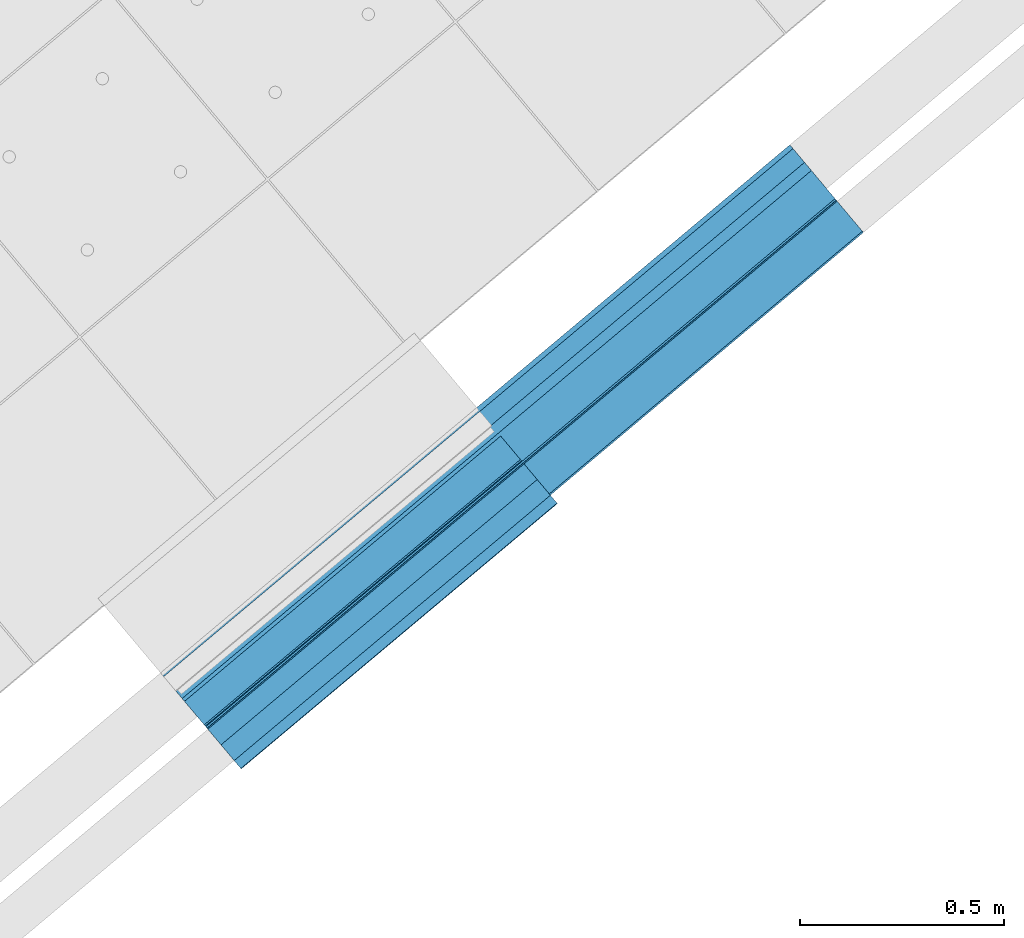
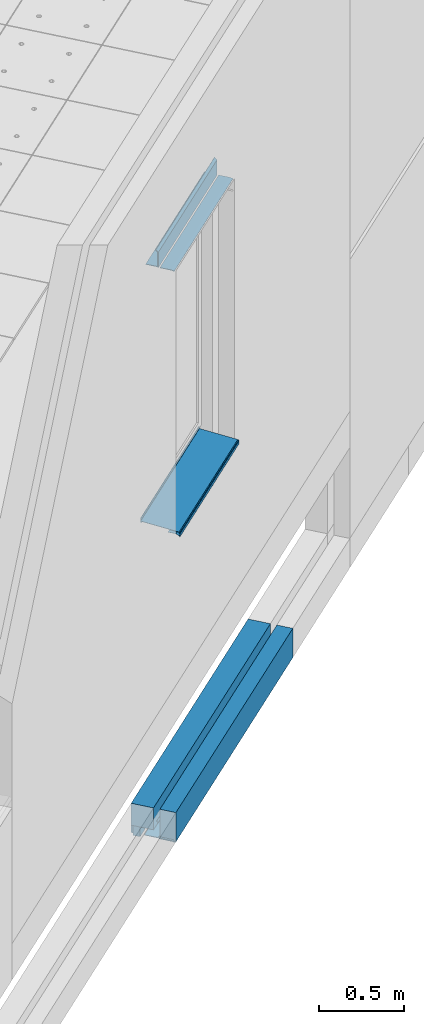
# One storey, part 51 of 321: 10 building element parts, 3 elements without a shape of their own.
"""IFC2X3 building model written with IfcOpenShell, lengths in millimetres."""

from ifc_helpers import new_model, entity, si_unit, converted_unit, derived_unit, money_unit, direction, frame, origin_with_axes, place, context, subcontext, project, spatial, faceted_brep, material, type_object, element, aggregate, save


model = new_model("IFC2X3")

# Units and contexts
model_context = context("Model", 3, precision=0.01, world=origin_with_axes(), true_north=direction((0.0, 1.0)))
plan_context = context("Plan", 3, precision=0.01, world=origin_with_axes(), true_north=direction((0.0, 1.0)))
body_context = subcontext(model_context, "Body", "Model", "MODEL_VIEW")
ifc_project = project(units=[si_unit("LENGTHUNIT", "METRE", prefix="MILLI"), si_unit("AREAUNIT", "SQUARE_METRE"), si_unit("VOLUMEUNIT", "CUBIC_METRE"), converted_unit("PLANEANGLEUNIT", "DEGREE", entity("IfcPlaneAngleMeasure", 0.0174532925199), si_unit("PLANEANGLEUNIT", "RADIAN"), dimensions=[0, 0, 0, 0, 0, 0, 0]), money_unit("EUR"), converted_unit("TIMEUNIT", "Year", entity("IfcTimeMeasure", 31556926.0), si_unit("TIMEUNIT", "SECOND"), dimensions=[0, 0, 1, 0, 0, 0, 0]), si_unit("MASSUNIT", "GRAM", prefix="KILO"), si_unit("THERMODYNAMICTEMPERATUREUNIT", "DEGREE_CELSIUS"), si_unit("LUMINOUSINTENSITYUNIT", "LUMEN"), si_unit("ENERGYUNIT", "JOULE", prefix="MEGA"), derived_unit("THERMALCONDUCTANCEUNIT", [(si_unit("POWERUNIT", "WATT"), 1), (si_unit("LENGTHUNIT", "METRE"), -1), (si_unit("THERMODYNAMICTEMPERATUREUNIT", "KELVIN"), -1)]), derived_unit("SPECIFICHEATCAPACITYUNIT", [(si_unit("ENERGYUNIT", "JOULE"), 1), (si_unit("MASSUNIT", "GRAM", prefix="KILO"), -1), (si_unit("THERMODYNAMICTEMPERATUREUNIT", "KELVIN"), -1)]), derived_unit("MASSDENSITYUNIT", [(si_unit("MASSUNIT", "GRAM", prefix="KILO"), 1), (si_unit("VOLUMEUNIT", "CUBIC_METRE"), -1)])], contexts=[model_context, plan_context])

# Site, building, storey
site_placement = place(None, origin_with_axes())
site = spatial("IfcSite", under=ifc_project, at=site_placement, Name="Fortuinstraat Woensdrecht", CompositionType="ELEMENT")
building_placement = place(site_placement, origin_with_axes())
building = spatial("IfcBuilding", under=site, at=building_placement, Name="IKC Fortuna", CompositionType="ELEMENT")
storey_placement = place(building_placement, frame((0.0, 0.0, 4000.0), z_axis=(0.0, 0.0, 1.0), x_axis=(1.0, 0.0, 0.0)))
storey = spatial("IfcBuildingStorey", under=building, at=storey_placement, Name="01 eerste verdieping", CompositionType="ELEMENT", Elevation=4000.0)

# Covering, building element parts
covering_type_1 = type_object("IfcCoveringType", Name="41 Waterslag MW 545 x 90", PredefinedType="NOTDEFINED")
covering_1_placement = place(storey_placement, frame((20551.1088054, -11563.3002421, 2522.49999925), z_axis=(0.0, 0.0, 1.0), x_axis=(0.766044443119, 0.642787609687, 0.0)))
covering_1 = element("IfcCovering", 1, at=covering_1_placement, inside=storey, type_object=covering_type_1, Name="41_Afwerking_Waterslag", PredefinedType="NOTDEFINED")
ifc_material_1 = material(Name="Metaal - Aluminium")
building_element_part_1_placement = place(covering_1_placement, origin_with_axes())
building_element_part_1 = element("IfcBuildingElementPart", 2, at=building_element_part_1_placement, material=ifc_material_1, Name="Metaal - Aluminium", context=body_context, shape_type="Brep", body=[
    faceted_brep([(1010.0, -167.003696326, -64.7512509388), (1010.0, -164.901915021, -59.3465292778), (0.0, -164.901915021, -59.3465292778), (0.0, -167.003696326, -64.7512509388), (1010.0, -167.003696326, -86.9206015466), (1010.0, -166.030466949, -89.132433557), (1010.0, -163.742229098, -89.9091856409), (1010.0, -162.360118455, -89.7882666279), (1010.0, -162.035057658, -89.6279643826), (1010.0, -161.903696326, -89.2901692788), (1010.0, -161.903696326, -84.9222091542), (1010.0, -162.050140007, -84.5686628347), (1010.0, -162.403686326, -84.4222191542), (1010.0, -162.653694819, -84.4222191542), (1010.0, -163.358998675, -84.7155720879), (1010.0, -163.403696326, -84.9222091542), (1010.0, -163.403696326, -86.7222191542), (1010.0, -163.46227497, -86.8636405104), (1010.0, -163.603696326, -86.9222191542), (1010.0, -165.303696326, -86.9222191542), (1010.0, -165.445117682, -86.8636405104), (1010.0, -165.503696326, -86.7222191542), (1010.0, -165.503696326, -66.105485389), (1010.0, -165.451151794, -65.9703673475), (1010.0, -165.321127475, -65.9062464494), (1010.0, -163.621127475, -65.7575157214), (1010.0, -163.468578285, -65.8092991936), (1010.0, -163.403696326, -65.956754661), (1010.0, -163.403696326, -67.9222291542), (1010.0, -163.257252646, -68.2757754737), (1010.0, -162.903706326, -68.4222191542), (1010.0, -162.403686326, -68.4222191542), (1010.0, -162.050140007, -68.2757754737), (1010.0, -161.903696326, -67.9222291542), (1010.0, -161.903696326, -65.7905262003), (1010.0, -161.851151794, -65.6554081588), (1010.0, -161.721127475, -65.5912872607), (1010.0, -157.460879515, -65.2185638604), (1010.0, -157.135818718, -65.0582616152), (1010.0, -157.004457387, -64.7204665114), (1010.0, -157.004457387, -64.2185456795), (1010.0, -157.166659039, -63.8499143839), (1010.0, -157.548024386, -63.7204582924), (1010.0, -164.111737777, -64.2947088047), (1010.0, -164.52638143, -64.131738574), (1010.0, -164.646415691, -63.7026926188), (1010.0, -162.774740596, -60.3769292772), (1010.0, -159.276149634, -58.852550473), (1010.0, 80.4527258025, -37.8789915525), (1010.0, 80.8340987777, -38.0084502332), (1010.0, 80.9963036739, -38.3770889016), (1010.0, 80.9963036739, -42.3923682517), (1010.0, 80.8649423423, -42.7301633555), (1010.0, 80.5398815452, -42.8904656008), (1010.0, 74.9527258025, -43.3792783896), (1010.0, 74.6276650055, -43.5395806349), (1010.0, 74.4963036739, -43.8773757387), (1010.0, 74.4963036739, -44.3792856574), (1010.0, 74.6585085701, -44.7479243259), (1010.0, 75.0398815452, -44.8773830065), (1010.0, 82.4237866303, -44.231375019), (1010.0, 82.547776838, -44.1735574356), (1010.0, 82.9377250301, -43.7836092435), (1010.0, 83.0, -43.6421878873), (1010.0, 82.9377250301, -43.5007665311), (1010.0, 82.4963036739, -43.0593451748), (1010.0, 82.9377250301, -42.6179238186), (1010.0, 83.0, -42.4765024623), (1010.0, 82.9377250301, -42.3350811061), (1010.0, 82.4963036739, -41.8936597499), (1010.0, 82.9377250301, -41.4522383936), (1010.0, 83.0, -41.3108170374), (1010.0, 82.9377250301, -41.1693956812), (1010.0, 82.4963036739, -40.7279743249), (1010.0, 82.9377250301, -40.2865529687), (1010.0, 83.0, -40.1451316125), (1010.0, 82.9377250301, -40.0037102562), (1010.0, 82.4963036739, -39.5622889), (1010.0, 82.9377250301, -39.1208675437), (1010.0, 83.0, -38.9794461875), (1010.0, 82.9377250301, -38.8380248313), (1010.0, 82.4963036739, -38.396603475), (1010.0, 82.9377250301, -37.9551821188), (1010.0, 83.0, -37.8137607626), (1010.0, 82.9377250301, -37.6723394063), (1010.0, 82.4963036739, -37.2309180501), (1010.0, 82.9377250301, -36.7894966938), (1010.0, 83.0, -36.6480753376), (1010.0, 82.9377250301, -36.5066539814), (1010.0, 82.4963036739, -36.0652326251), (1010.0, 82.9377250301, -35.6238112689), (1010.0, 83.0, -35.4823899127), (1010.0, 82.9377250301, -35.3409685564), (1010.0, 82.4963036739, -34.8995472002), (1010.0, 82.9377250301, -34.4581258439), (1010.0, 83.0, -34.3167044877), (1010.0, 82.9377250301, -34.1752831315), (1010.0, 82.4963036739, -33.7338617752), (1010.0, 82.9377250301, -33.292440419), (1010.0, 83.0, -33.1510190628), (1010.0, 82.9377250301, -33.0095977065), (1010.0, 82.4963036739, -32.5681763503), (1010.0, 82.9377250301, -32.126754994), (1010.0, 83.0, -31.9853336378), (1010.0, 82.9377250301, -31.8439122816), (1010.0, 82.4963036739, -31.4024909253), (1010.0, 82.9377250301, -30.9610695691), (1010.0, 83.0, -30.8196482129), (1010.0, 82.9377250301, -30.6782268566), (1010.0, 82.4963036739, -30.2368055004), (1010.0, 82.9377250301, -29.7953841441), (1010.0, 83.0, -29.6539627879), (1010.0, 82.9377250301, -29.5125414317), (1010.0, 82.4963036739, -29.0711200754), (1010.0, 82.9377250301, -28.6296987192), (1010.0, 83.0, -28.488277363), (1010.0, 82.9377250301, -28.3468560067), (1010.0, 82.4963036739, -27.9054346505), (1010.0, 82.9377250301, -27.4640132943), (1010.0, 83.0, -27.322591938), (1010.0, 82.9377250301, -27.1811705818), (1010.0, 82.4963036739, -26.7397492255), (1010.0, 82.9377250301, -26.2983278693), (1010.0, 83.0, -26.1569065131), (1010.0, 82.9377250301, -26.0154851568), (1010.0, 82.4963036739, -25.5740638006), (1010.0, 82.9377250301, -25.1326424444), (1010.0, 83.0, -24.9912210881), (1010.0, 82.9377250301, -24.8497997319), (1010.0, 82.4963036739, -24.4083783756), (1010.0, 82.9377250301, -23.9669570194), (1010.0, 83.0, -23.8255356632), (1010.0, 82.9377250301, -23.6841143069), (1010.0, 82.4963036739, -23.2426929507), (1010.0, 82.9377250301, -22.8012715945), (1010.0, 83.0, -22.6598502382), (1010.0, 82.9377250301, -22.518428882), (1010.0, 82.4963036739, -22.0770075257), (1010.0, 82.9377250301, -21.6355861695), (1010.0, 83.0, -21.4941648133), (1010.0, 82.9377250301, -21.352743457), (1010.0, 82.4963036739, -20.9113221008), (1010.0, 82.9377250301, -20.4699007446), (1010.0, 83.0, -20.3284793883), (1010.0, 82.9377250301, -20.1870580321), (1010.0, 82.4963036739, -19.7456366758), (1010.0, 82.9377250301, -19.3042153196), (1010.0, 83.0, -19.1627939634), (1010.0, 82.9377250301, -19.0213726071), (1010.0, 82.4963036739, -18.5799512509), (1010.0, 82.9377250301, -18.1385298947), (1010.0, 83.0, -17.9971085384), (1010.0, 82.9377250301, -17.8556871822), (1010.0, 82.4963036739, -17.4142658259), (1010.0, 82.9377250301, -16.9728444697), (1010.0, 82.9963036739, -16.8314231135), (1010.0, 82.9963036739, -16.4250305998), (1010.0, 82.9437448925, -16.2898970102), (1010.0, 82.8136928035, -16.2257879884), (1010.0, 82.3655700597, -16.2619509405), (1010.0, 81.3903876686, -16.7428576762), (1010.0, 80.9963036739, -17.7562429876), (1010.0, 80.9963036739, -35.2652474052), (1010.0, 80.8649423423, -35.603042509), (1010.0, 80.5398815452, -35.7633447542), (1010.0, -159.700942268, -56.781693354), (0.0, -159.700942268, -56.781693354), (0.0, 80.5398815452, -35.7633447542), (0.0, 80.8649423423, -35.603042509), (0.0, 80.9963036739, -35.2652474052), (0.0, 80.9963036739, -17.7562429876), (0.0, 81.3903876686, -16.7428576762), (0.0, 82.3655700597, -16.2619509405), (0.0, 82.8136928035, -16.2257879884), (0.0, 82.9437448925, -16.2898970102), (0.0, 82.9963036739, -16.4250305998), (0.0, 82.9963036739, -16.8314231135), (0.0, 82.9377250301, -16.9728444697), (0.0, 82.4963036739, -17.4142658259), (0.0, 82.9377250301, -17.8556871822), (0.0, 83.0, -17.9971085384), (0.0, 82.9377250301, -18.1385298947), (0.0, 82.4963036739, -18.5799512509), (0.0, 82.9377250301, -19.0213726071), (0.0, 83.0, -19.1627939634), (0.0, 82.9377250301, -19.3042153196), (0.0, 82.4963036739, -19.7456366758), (0.0, 82.9377250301, -20.1870580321), (0.0, 83.0, -20.3284793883), (0.0, 82.9377250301, -20.4699007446), (0.0, 82.4963036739, -20.9113221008), (0.0, 82.9377250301, -21.352743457), (0.0, 83.0, -21.4941648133), (0.0, 82.9377250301, -21.6355861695), (0.0, 82.4963036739, -22.0770075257), (0.0, 82.9377250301, -22.518428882), (0.0, 83.0, -22.6598502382), (0.0, 82.9377250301, -22.8012715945), (0.0, 82.4963036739, -23.2426929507), (0.0, 82.9377250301, -23.6841143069), (0.0, 83.0, -23.8255356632), (0.0, 82.9377250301, -23.9669570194), (0.0, 82.4963036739, -24.4083783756), (0.0, 82.9377250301, -24.8497997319), (0.0, 83.0, -24.9912210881), (0.0, 82.9377250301, -25.1326424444), (0.0, 82.4963036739, -25.5740638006), (0.0, 82.9377250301, -26.0154851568), (0.0, 83.0, -26.1569065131), (0.0, 82.9377250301, -26.2983278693), (0.0, 82.4963036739, -26.7397492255), (0.0, 82.9377250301, -27.1811705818), (0.0, 83.0, -27.322591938), (0.0, 82.9377250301, -27.4640132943), (0.0, 82.4963036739, -27.9054346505), (0.0, 82.9377250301, -28.3468560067), (0.0, 83.0, -28.488277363), (0.0, 82.9377250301, -28.6296987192), (0.0, 82.4963036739, -29.0711200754), (0.0, 82.9377250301, -29.5125414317), (0.0, 83.0, -29.6539627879), (0.0, 82.9377250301, -29.7953841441), (0.0, 82.4963036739, -30.2368055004), (0.0, 82.9377250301, -30.6782268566), (0.0, 83.0, -30.8196482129), (0.0, 82.9377250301, -30.9610695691), (0.0, 82.4963036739, -31.4024909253), (0.0, 82.9377250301, -31.8439122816), (0.0, 83.0, -31.9853336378), (0.0, 82.9377250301, -32.126754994), (0.0, 82.4963036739, -32.5681763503), (0.0, 82.9377250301, -33.0095977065), (0.0, 83.0, -33.1510190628), (0.0, 82.9377250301, -33.292440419), (0.0, 82.4963036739, -33.7338617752), (0.0, 82.9377250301, -34.1752831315), (0.0, 83.0, -34.3167044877), (0.0, 82.9377250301, -34.4581258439), (0.0, 82.4963036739, -34.8995472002), (0.0, 82.9377250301, -35.3409685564), (0.0, 83.0, -35.4823899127), (0.0, 82.9377250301, -35.6238112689), (0.0, 82.4963036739, -36.0652326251), (0.0, 82.9377250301, -36.5066539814), (0.0, 83.0, -36.6480753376), (0.0, 82.9377250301, -36.7894966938), (0.0, 82.4963036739, -37.2309180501), (0.0, 82.9377250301, -37.6723394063), (0.0, 83.0, -37.8137607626), (0.0, 82.9377250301, -37.9551821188), (0.0, 82.4963036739, -38.396603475), (0.0, 82.9377250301, -38.8380248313), (0.0, 83.0, -38.9794461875), (0.0, 82.9377250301, -39.1208675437), (0.0, 82.4963036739, -39.5622889), (0.0, 82.9377250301, -40.0037102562), (0.0, 83.0, -40.1451316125), (0.0, 82.9377250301, -40.2865529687), (0.0, 82.4963036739, -40.7279743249), (0.0, 82.9377250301, -41.1693956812), (0.0, 83.0, -41.3108170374), (0.0, 82.9377250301, -41.4522383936), (0.0, 82.4963036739, -41.8936597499), (0.0, 82.9377250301, -42.3350811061), (0.0, 83.0, -42.4765024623), (0.0, 82.9377250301, -42.6179238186), (0.0, 82.4963036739, -43.0593451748), (0.0, 82.9377250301, -43.5007665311), (0.0, 83.0, -43.6421878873), (0.0, 82.9377250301, -43.7836092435), (0.0, 82.547776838, -44.1735574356), (0.0, 82.4237866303, -44.231375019), (0.0, 75.0398815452, -44.8773830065), (0.0, 74.6585085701, -44.7479243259), (0.0, 74.4963036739, -44.3792856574), (0.0, 74.4963036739, -43.8773757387), (0.0, 74.6276650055, -43.5395806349), (0.0, 74.9527258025, -43.3792783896), (0.0, 80.5398815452, -42.8904656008), (0.0, 80.8649423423, -42.7301633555), (0.0, 80.9963036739, -42.3923682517), (0.0, 80.9963036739, -38.3770889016), (0.0, 80.8340987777, -38.0084502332), (0.0, 80.4527258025, -37.8789915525), (0.0, -159.276149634, -58.852550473), (0.0, -162.774740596, -60.3769292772), (0.0, -164.646415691, -63.7026926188), (0.0, -164.52638143, -64.131738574), (0.0, -164.111737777, -64.2947088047), (0.0, -157.548024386, -63.7204582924), (0.0, -157.166659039, -63.8499143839), (0.0, -157.004457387, -64.2185456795), (0.0, -157.004457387, -64.7204665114), (0.0, -157.135818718, -65.0582616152), (0.0, -157.460879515, -65.2185638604), (0.0, -161.721127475, -65.5912872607), (0.0, -161.851151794, -65.6554081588), (0.0, -161.903696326, -65.7905262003), (0.0, -161.903696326, -67.9222291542), (0.0, -162.050140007, -68.2757754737), (0.0, -162.403686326, -68.4222191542), (0.0, -162.903706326, -68.4222191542), (0.0, -163.257252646, -68.2757754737), (0.0, -163.403696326, -67.9222291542), (0.0, -163.403696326, -65.956754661), (0.0, -163.468578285, -65.8092991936), (0.0, -163.621127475, -65.7575157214), (0.0, -165.321127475, -65.9062464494), (0.0, -165.451151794, -65.9703673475), (0.0, -165.503696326, -66.105485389), (0.0, -165.503696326, -86.7222191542), (0.0, -165.445117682, -86.8636405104), (0.0, -165.303696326, -86.9222191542), (0.0, -163.603696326, -86.9222191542), (0.0, -163.46227497, -86.8636405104), (0.0, -163.403696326, -86.7222191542), (0.0, -163.403696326, -84.9222091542), (0.0, -163.358998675, -84.7155720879), (0.0, -162.653694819, -84.4222191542), (0.0, -162.403686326, -84.4222191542), (0.0, -162.050140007, -84.5686628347), (0.0, -161.903696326, -84.9222091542), (0.0, -161.903696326, -89.2901692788), (0.0, -162.035057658, -89.6279643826), (0.0, -162.360118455, -89.7882666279), (0.0, -163.742229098, -89.9091856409), (0.0, -166.030466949, -89.132433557), (0.0, -167.003696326, -86.9206015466)], [[[0, 1, 2, 3]], [[0, 4, 5, 6, 7, 8, 9, 10, 11, 12, 13, 14, 15, 16, 17, 18, 19, 20, 21, 22, 23, 24, 25, 26, 27, 28, 29, 30, 31, 32, 33, 34, 35, 36, 37, 38, 39, 40, 41, 42, 43, 44, 45, 46, 47, 48, 49, 50, 51, 52, 53, 54, 55, 56, 57, 58, 59, 60, 61, 62, 63, 64, 65, 66, 67, 68, 69, 70, 71, 72, 73, 74, 75, 76, 77, 78, 79, 80, 81, 82, 83, 84, 85, 86, 87, 88, 89, 90, 91, 92, 93, 94, 95, 96, 97, 98, 99, 100, 101, 102, 103, 104, 105, 106, 107, 108, 109, 110, 111, 112, 113, 114, 115, 116, 117, 118, 119, 120, 121, 122, 123, 124, 125, 126, 127, 128, 129, 130, 131, 132, 133, 134, 135, 136, 137, 138, 139, 140, 141, 142, 143, 144, 145, 146, 147, 148, 149, 150, 151, 152, 153, 154, 155, 156, 157, 158, 159, 160, 161, 162, 163, 164, 165, 1]], [[1, 165, 166, 2]], [[3, 2, 166, 167, 168, 169, 170, 171, 172, 173, 174, 175, 176, 177, 178, 179, 180, 181, 182, 183, 184, 185, 186, 187, 188, 189, 190, 191, 192, 193, 194, 195, 196, 197, 198, 199, 200, 201, 202, 203, 204, 205, 206, 207, 208, 209, 210, 211, 212, 213, 214, 215, 216, 217, 218, 219, 220, 221, 222, 223, 224, 225, 226, 227, 228, 229, 230, 231, 232, 233, 234, 235, 236, 237, 238, 239, 240, 241, 242, 243, 244, 245, 246, 247, 248, 249, 250, 251, 252, 253, 254, 255, 256, 257, 258, 259, 260, 261, 262, 263, 264, 265, 266, 267, 268, 269, 270, 271, 272, 273, 274, 275, 276, 277, 278, 279, 280, 281, 282, 283, 284, 285, 286, 287, 288, 289, 290, 291, 292, 293, 294, 295, 296, 297, 298, 299, 300, 301, 302, 303, 304, 305, 306, 307, 308, 309, 310, 311, 312, 313, 314, 315, 316, 317, 318, 319, 320, 321, 322, 323, 324, 325, 326, 327]], [[4, 0, 3, 327]], [[5, 4, 327, 326]], [[6, 5, 326, 325]], [[7, 6, 325, 324]], [[8, 7, 324, 323]], [[9, 8, 323, 322]], [[10, 9, 322, 321]], [[11, 10, 321, 320]], [[12, 11, 320, 319]], [[13, 12, 319, 318]], [[14, 13, 318, 317]], [[15, 14, 317, 316]], [[16, 15, 316, 315]], [[17, 16, 315, 314]], [[18, 17, 314, 313]], [[19, 18, 313, 312]], [[20, 19, 312, 311]], [[21, 20, 311, 310]], [[22, 21, 310, 309]], [[23, 22, 309, 308]], [[24, 23, 308, 307]], [[25, 24, 307, 306]], [[26, 25, 306, 305]], [[27, 26, 305, 304]], [[28, 27, 304, 303]], [[29, 28, 303, 302]], [[30, 29, 302, 301]], [[31, 30, 301, 300]], [[32, 31, 300, 299]], [[33, 32, 299, 298]], [[34, 33, 298, 297]], [[35, 34, 297, 296]], [[36, 35, 296, 295]], [[37, 36, 295, 294]], [[38, 37, 294, 293]], [[39, 38, 293, 292]], [[40, 39, 292, 291]], [[41, 40, 291, 290]], [[42, 41, 290, 289]], [[43, 42, 289, 288]], [[44, 43, 288, 287]], [[45, 44, 287, 286]], [[46, 45, 286, 285]], [[47, 46, 285, 284]], [[48, 47, 284, 283]], [[49, 48, 283, 282]], [[50, 49, 282, 281]], [[51, 50, 281, 280]], [[52, 51, 280, 279]], [[53, 52, 279, 278]], [[54, 53, 278, 277]], [[55, 54, 277, 276]], [[56, 55, 276, 275]], [[57, 56, 275, 274]], [[58, 57, 274, 273]], [[59, 58, 273, 272]], [[60, 59, 272, 271]], [[61, 60, 271, 270]], [[62, 61, 270, 269]], [[63, 62, 269, 268]], [[64, 63, 268, 267]], [[65, 64, 267, 266]], [[66, 65, 266, 265]], [[67, 66, 265, 264]], [[68, 67, 264, 263]], [[69, 68, 263, 262]], [[70, 69, 262, 261]], [[71, 70, 261, 260]], [[72, 71, 260, 259]], [[73, 72, 259, 258]], [[74, 73, 258, 257]], [[75, 74, 257, 256]], [[76, 75, 256, 255]], [[77, 76, 255, 254]], [[78, 77, 254, 253]], [[79, 78, 253, 252]], [[80, 79, 252, 251]], [[81, 80, 251, 250]], [[82, 81, 250, 249]], [[83, 82, 249, 248]], [[84, 83, 248, 247]], [[85, 84, 247, 246]], [[86, 85, 246, 245]], [[87, 86, 245, 244]], [[88, 87, 244, 243]], [[89, 88, 243, 242]], [[90, 89, 242, 241]], [[91, 90, 241, 240]], [[92, 91, 240, 239]], [[93, 92, 239, 238]], [[94, 93, 238, 237]], [[95, 94, 237, 236]], [[96, 95, 236, 235]], [[97, 96, 235, 234]], [[98, 97, 234, 233]], [[99, 98, 233, 232]], [[100, 99, 232, 231]], [[101, 100, 231, 230]], [[102, 101, 230, 229]], [[103, 102, 229, 228]], [[104, 103, 228, 227]], [[105, 104, 227, 226]], [[106, 105, 226, 225]], [[107, 106, 225, 224]], [[108, 107, 224, 223]], [[109, 108, 223, 222]], [[110, 109, 222, 221]], [[111, 110, 221, 220]], [[112, 111, 220, 219]], [[113, 112, 219, 218]], [[114, 113, 218, 217]], [[115, 114, 217, 216]], [[116, 115, 216, 215]], [[117, 116, 215, 214]], [[118, 117, 214, 213]], [[119, 118, 213, 212]], [[120, 119, 212, 211]], [[121, 120, 211, 210]], [[122, 121, 210, 209]], [[123, 122, 209, 208]], [[124, 123, 208, 207]], [[125, 124, 207, 206]], [[126, 125, 206, 205]], [[127, 126, 205, 204]], [[128, 127, 204, 203]], [[129, 128, 203, 202]], [[130, 129, 202, 201]], [[131, 130, 201, 200]], [[132, 131, 200, 199]], [[133, 132, 199, 198]], [[134, 133, 198, 197]], [[135, 134, 197, 196]], [[136, 135, 196, 195]], [[137, 136, 195, 194]], [[138, 137, 194, 193]], [[139, 138, 193, 192]], [[140, 139, 192, 191]], [[141, 140, 191, 190]], [[142, 141, 190, 189]], [[143, 142, 189, 188]], [[144, 143, 188, 187]], [[145, 144, 187, 186]], [[146, 145, 186, 185]], [[147, 146, 185, 184]], [[148, 147, 184, 183]], [[149, 148, 183, 182]], [[150, 149, 182, 181]], [[151, 150, 181, 180]], [[152, 151, 180, 179]], [[153, 152, 179, 178]], [[154, 153, 178, 177]], [[155, 154, 177, 176]], [[156, 155, 176, 175]], [[157, 156, 175, 174]], [[158, 157, 174, 173]], [[159, 158, 173, 172]], [[160, 159, 172, 171]], [[161, 160, 171, 170]], [[162, 161, 170, 169]], [[163, 162, 169, 168]], [[164, 163, 168, 167]], [[165, 164, 167, 166]]]),
])
building_element_part_2_placement = place(covering_1_placement, origin_with_axes())
building_element_part_2 = element("IfcBuildingElementPart", 3, at=building_element_part_2_placement, material=ifc_material_1, Name="Metaal - Aluminium", context=body_context, shape_type="Brep", body=[
    faceted_brep([(1010.0, -89.9999998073, -74.9999995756), (1010.0, -140.000000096, -74.9999995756), (0.0, -140.000000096, -74.9999995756), (0.0, -89.9999998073, -74.9999995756), (1010.0, -89.9999998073, -74.0000108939), (1010.0, -140.199670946, -73.9999995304), (1010.0, -165.503695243, -84.5245552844), (1010.0, -165.119664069, -85.4478754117), (1010.0, -163.358998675, -84.7155720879), (1010.0, -162.653694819, -84.4222191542), (0.0, -162.653694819, -84.4222191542), (0.0, -163.358998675, -84.7155720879), (0.0, -165.119664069, -85.4478754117), (0.0, -165.503695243, -84.5245552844), (0.0, -140.199670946, -73.9999995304), (0.0, -89.9999998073, -74.0000108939)], [[[0, 1, 2, 3]], [[0, 4, 5, 6, 7, 8, 9, 1]], [[1, 9, 10, 2]], [[3, 2, 10, 11, 12, 13, 14, 15]], [[4, 0, 3, 15]], [[5, 4, 15, 14]], [[6, 5, 14, 13]], [[7, 6, 13, 12]], [[8, 7, 12, 11]], [[9, 8, 11, 10]]]),
])
aggregate(covering_1, [building_element_part_1, building_element_part_2])

covering_type_2 = type_object("IfcCoveringType", Name="41 Latei MW rollaag 280 x 227", PredefinedType="NOTDEFINED")
covering_2_placement = place(storey_placement, frame((22090.8581361, -10271.2971467, 237.5), z_axis=(0.0, 0.0, 1.0), x_axis=(-0.766044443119, -0.642787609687, 0.0)))
covering_2 = element("IfcCovering", 4, at=covering_2_placement, inside=storey, type_object=covering_type_2, Name="41_Afwerking_Latei + rollaag", PredefinedType="NOTDEFINED")
ifc_material_2 = material(Name="Metaal - Staal C")
building_element_part_3_placement = place(covering_2_placement, origin_with_axes())
building_element_part_3 = element("IfcBuildingElementPart", 5, at=building_element_part_3_placement, material=ifc_material_2, Name="Metaal - Staal C", context=body_context, shape_type="Brep", body=[
    faceted_brep([(2010.0, 28.9345153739, 113.654953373), (0.0, 28.9345153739, 113.654953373), (0.0, 20.8284271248, 121.828427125), (2010.0, 20.8284271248, 121.828427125), (0.0, 28.9345153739, 108.065484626), (2010.0, 28.9345153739, 108.065484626), (0.0, 18.0000000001, 119.0), (2010.0, 18.0000000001, 119.0)], [[[0, 1, 2, 3]], [[4, 1, 0, 5]], [[1, 4, 6, 2]], [[6, 7, 3, 2]], [[5, 0, 3, 7]], [[4, 5, 7, 6]]]),
    faceted_brep([(0.0, 32.0, 2.49999999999), (0.0, 36.6213203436, 2.49999999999), (0.0, 37.1715728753, 1.17157287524), (0.0, 40.0, 0.0), (0.0, 115.609685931, 0.0), (0.0, 136.0, -4.07767729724), (0.0, 135.215535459, -8.0), (0.0, 115.215535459, -4.0), (0.0, 36.0, -4.0), (0.0, 33.1715728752, -2.82842712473), (0.0, 32.0, 0.0), (2010.0, 36.6213203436, 2.49999999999), (2010.0, 32.0, 2.49999999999), (2010.0, 37.1715728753, 1.17157287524), (2010.0, 40.0, 0.0), (2010.0, 115.609685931, 0.0), (2010.0, 136.0, -4.07767729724), (2010.0, 135.215535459, -8.0), (2010.0, 115.215535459, -4.0), (2010.0, 36.0, -4.0), (2010.0, 33.1715728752, -2.82842712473), (2010.0, 32.0, 0.0)], [[[0, 1, 2, 3, 4, 5, 6, 7, 8, 9, 10]], [[11, 1, 0, 12]], [[1, 11, 13, 2]], [[2, 13, 14, 3]], [[3, 14, 15, 4]], [[4, 15, 16, 5]], [[5, 16, 17, 6]], [[6, 17, 18, 7]], [[7, 18, 19, 8]], [[8, 19, 20, 9]], [[9, 20, 21, 10]], [[12, 0, 10, 21]], [[11, 12, 21, 20, 19, 18, 17, 16, 15, 14, 13]]]),
])
ifc_material_3 = material(Name="Steen - Baksteen Accent Rollaag")
building_element_part_4_placement = place(covering_2_placement, origin_with_axes())
building_element_part_4 = element("IfcBuildingElementPart", 6, at=building_element_part_4_placement, material=ifc_material_3, Name="Steen - Baksteen Accent Rollaag", context=body_context, shape_type="Brep", body=[
    faceted_brep([(0.0, 40.0, 2.49999999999), (0.0, 128.934515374, 2.49999999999), (0.0, 128.934515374, 6.5), (0.0, 127.177156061, 10.7426406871), (0.0, 122.934515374, 12.5), (0.0, 50.9345153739, 12.5), (0.0, 42.4492339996, 16.0147186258), (0.0, 40.0, 21.927692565), (0.0, 40.0, 210.0), (0.0, 140.0, 210.0), (0.0, 140.0, 0.0), (0.0, 115.609685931, 0.0), (0.0, 40.0, 0.0), (2010.0, 40.0, 2.49999999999), (2010.0, 128.934515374, 2.49999999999), (2010.0, 128.934515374, 6.5), (2010.0, 127.177156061, 10.7426406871), (2010.0, 122.934515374, 12.5), (2010.0, 50.9345153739, 12.5), (2010.0, 42.4492339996, 16.0147186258), (2010.0, 40.0, 21.927692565), (2010.0, 40.0, 210.0), (2010.0, 140.0, 210.0), (2010.0, 140.0, 0.0), (2010.0, 115.609685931, 0.0), (2010.0, 40.0, 0.0)], [[[0, 1, 2, 3, 4, 5, 6, 7, 8, 9, 10, 11, 12]], [[1, 0, 13, 14]], [[2, 1, 14, 15]], [[3, 2, 15, 16]], [[4, 3, 16, 17]], [[5, 4, 17, 18]], [[6, 5, 18, 19]], [[7, 6, 19, 20]], [[7, 20, 21, 8]], [[8, 21, 22, 9]], [[9, 22, 23, 10]], [[10, 23, 24, 11]], [[11, 24, 25, 12]], [[13, 0, 12, 25]], [[14, 13, 25, 24, 23, 22, 21, 20, 19, 18, 17, 16, 15]]]),
])
ifc_material_4 = material(Name="Metaal - Staal AFW")
building_element_part_5_placement = place(covering_2_placement, origin_with_axes())
building_element_part_5 = element("IfcBuildingElementPart", 7, at=building_element_part_5_placement, material=ifc_material_4, Name="Metaal - Staal AFW", context=body_context, shape_type="Brep", body=[
    faceted_brep([(0.0, 28.9345153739, 4.0), (0.0, 28.9345153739, 2.49999999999), (0.0, 32.0, 2.49999999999), (0.0, 32.0, 0.0), (0.0, -58.0, 0.0), (0.0, -58.0, 4.0), (2010.0, 28.9345153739, 4.0), (2010.0, 28.9345153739, 2.49999999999), (2010.0, 32.0, 2.49999999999), (2010.0, 32.0, 0.0), (2010.0, -58.0, 0.0), (2010.0, -58.0, 4.0)], [[[0, 1, 2, 3, 4, 5]], [[1, 0, 6, 7]], [[8, 2, 1, 7]], [[2, 8, 9, 3]], [[3, 9, 10, 4]], [[4, 10, 11, 5]], [[6, 0, 5, 11]], [[7, 6, 11, 10, 9, 8]]]),
])
ifc_material_5 = material(Name="ALG - ISOLATIE")
building_element_part_6_placement = place(covering_2_placement, origin_with_axes())
building_element_part_6 = element("IfcBuildingElementPart", 8, at=building_element_part_6_placement, material=ifc_material_5, Name="ALG - ISOLATIE", context=body_context, shape_type="Brep", body=[
    faceted_brep([(0.0, -140.0, 53.0), (2010.0, -140.0, 53.0), (2010.0, -140.0, 210.0), (0.0, -140.0, 210.0), (0.0, -83.9999988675, 53.0000013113), (2010.0, -83.9999988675, 53.0000013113), (2010.0, 0.0, 53.0), (2010.0, 0.0, 210.0), (0.0, 0.0, 210.0), (0.0, 0.0, 53.0)], [[[0, 1, 2, 3]], [[4, 5, 1, 0]], [[2, 1, 5, 6, 7]], [[3, 2, 7, 8]], [[4, 0, 3, 8, 9]], [[9, 6, 5, 4]], [[8, 7, 6, 9]]]),
])
ifc_material_6 = material(Name="Hout AFW")
building_element_part_7_placement = place(covering_2_placement, origin_with_axes())
building_element_part_7 = element("IfcBuildingElementPart", 9, at=building_element_part_7_placement, material=ifc_material_6, Name="Hout AFW", context=body_context, shape_type="Brep", body=[
    faceted_brep([(0.0, -127.999998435, 53.0000013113), (2010.0, -127.999998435, 53.0000013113), (2010.0, -83.9999988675, 53.0000013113), (0.0, -83.9999988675, 53.0000013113), (0.0, -127.999998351, -1.28576260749e-07), (2010.0, -127.999998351, -1.28576260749e-07), (2010.0, -127.999998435, -17.0), (2010.0, -83.9999988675, -17.0), (0.0, -83.9999988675, -17.0), (0.0, -127.999998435, -17.0)], [[[0, 1, 2, 3]], [[4, 5, 1, 0]], [[2, 1, 5, 6, 7]], [[3, 2, 7, 8]], [[4, 0, 3, 8, 9]], [[9, 6, 5, 4]], [[8, 7, 6, 9]]]),
])
ifc_material_7 = material(Name="Isolatie - PUR gespoten")
building_element_part_8_placement = place(covering_2_placement, origin_with_axes())
building_element_part_8 = element("IfcBuildingElementPart", 10, at=building_element_part_8_placement, material=ifc_material_7, Name="Isolatie - PUR gespoten", context=body_context, shape_type="Brep", body=[
    faceted_brep([(0.0, -139.999999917, 53.0000002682), (2010.0, -139.999999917, 53.0000002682), (2010.0, -127.999998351, 53.0000013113), (0.0, -127.999998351, 53.0000013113), (0.0, -139.999999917, -1.28576260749e-07), (2010.0, -139.999999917, -1.28576260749e-07), (2010.0, -127.999998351, -1.28576260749e-07), (0.0, -127.999998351, -1.28576260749e-07)], [[[0, 1, 2, 3]], [[4, 5, 1, 0]], [[2, 1, 5, 6]], [[3, 2, 6, 7]], [[4, 0, 3, 7]], [[7, 6, 5, 4]]]),
])
aggregate(covering_2, [building_element_part_3, building_element_part_4, building_element_part_5, building_element_part_6, building_element_part_7, building_element_part_8])

covering_type_3 = type_object("IfcCoveringType", Name="41 Latei MW 275 x 142", PredefinedType="NOTDEFINED")
covering_3_placement = place(storey_placement, frame((20551.1088054, -11563.3002421, 4335.0), z_axis=(0.0, 0.0, 1.0), x_axis=(0.766044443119, 0.642787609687, 0.0)))
covering_3 = element("IfcCovering", 11, at=covering_3_placement, inside=storey, type_object=covering_type_3, Name="41_Afwerking_Waterslag", PredefinedType="NOTDEFINED")
building_element_part_9_placement = place(covering_3_placement, origin_with_axes())
building_element_part_9 = element("IfcBuildingElementPart", 12, at=building_element_part_9_placement, material=ifc_material_4, Name="Metaal - Staal AFW", context=body_context, shape_type="Brep", body=[
    faceted_brep([(0.0, 49.0, 0.0), (1010.0, 49.0, 0.0), (1010.0, -26.0, 0.0), (0.0, -26.0, 0.0), (0.0, 49.0, 4.0), (1010.0, 49.0, 4.0), (1010.0, -26.0, 4.0), (0.0, -26.0, 4.0)], [[[0, 1, 2, 3]], [[4, 5, 1, 0]], [[2, 1, 5, 6]], [[3, 2, 6, 7]], [[4, 0, 3, 7]], [[7, 6, 5, 4]]]),
])
building_element_part_10_placement = place(covering_3_placement, origin_with_axes())
building_element_part_10 = element("IfcBuildingElementPart", 13, at=building_element_part_10_placement, material=ifc_material_4, Name="Metaal - Staal AFW", context=body_context, shape_type="Brep", body=[
    faceted_brep([(0.0, -29.9999999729, 3.99999999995), (1010.0, -29.9999999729, 3.99999999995), (1010.0, -30.0000000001, 106.530733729), (0.0, -30.0000000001, 106.530733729), (1010.0, -29.9999999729, -4.0), (0.0, -29.9999999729, -4.0), (1010.0, -27.1715728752, -2.82842712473), (1010.0, -26.0, 0.0), (1010.0, -26.0, 4.0), (1010.0, -26.0, 105.0), (1010.0, -12.0000000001, 119.0), (1010.0, -14.8284271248, 121.828427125), (0.0, -14.8284271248, 121.828427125), (0.0, -12.0000000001, 119.0), (0.0, -26.0, 105.0), (0.0, -26.0, 4.0), (0.0, -26.0, 0.0), (0.0, -27.1715728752, -2.82842712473)], [[[0, 1, 2, 3]], [[4, 1, 0, 5]], [[1, 4, 6, 7, 8, 9, 10, 11, 2]], [[3, 2, 11, 12]], [[5, 0, 3, 12, 13, 14, 15, 16, 17]], [[4, 5, 17, 6]], [[16, 7, 6, 17]], [[15, 8, 7, 16]], [[14, 9, 8, 15]], [[13, 10, 9, 14]], [[12, 11, 10, 13]]]),
    faceted_brep([(1010.0, -39.9999999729, -3.99999985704), (1010.0, -39.9999999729, 0.0), (1010.0, -109.609685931, 0.0), (1010.0, -130.000000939, -4.07767792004), (1010.0, -129.215535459, -8.0), (1010.0, -109.215535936, -3.99999886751), (0.0, -39.9999999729, 0.0), (0.0, -39.9999999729, -3.99999985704), (0.0, -109.609685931, 0.0), (0.0, -130.000000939, -4.07767792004), (0.0, -129.215535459, -8.0), (0.0, -109.215535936, -3.99999886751)], [[[0, 1, 2, 3, 4, 5]], [[6, 1, 0, 7]], [[1, 6, 8, 2]], [[9, 3, 2, 8]], [[10, 4, 3, 9]], [[11, 5, 4, 10]], [[7, 0, 5, 11]], [[6, 7, 11, 10, 9, 8]]]),
])
aggregate(covering_3, [building_element_part_9, building_element_part_10])

save(model, "model.ifc")
